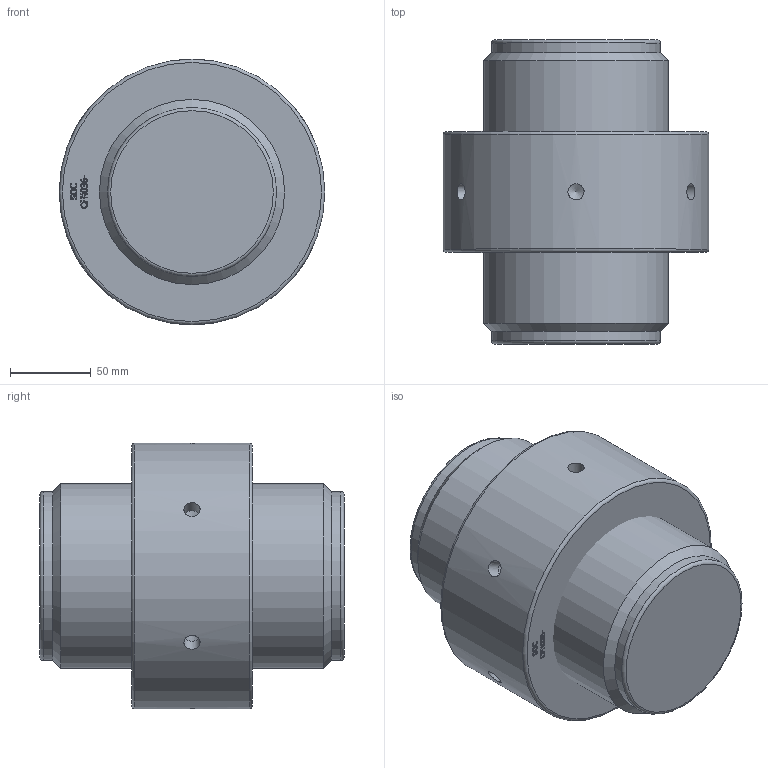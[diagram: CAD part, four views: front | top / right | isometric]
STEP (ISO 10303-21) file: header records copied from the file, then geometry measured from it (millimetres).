
FILE_DESCRIPTION(/* description */ (''),/* implementation_level */ '2;1');
FILE_NAME(/* name */ 'F:\Clienti LS\Redaelli\CYT\CYT\ARRNGEMENT\CYT036 61 061 0.stp',/* time_stamp */ '2021-05-09T08:43:59+02:00',/* author */ ('ranca'),/* organization */ (''),/* preprocessor_version */ 'ST-DEVELOPER v16.13',/* originating_system */ 'Autodesk Inventor 2018',/* authorisation */ '');
FILE_SCHEMA (('AUTOMOTIVE_DESIGN { 1 0 10303 214 3 1 1 }'));
Length unit declared in the file: millimetre
Products named in the file (3): CYT012-61-061-0; CYT012-61-061-0_1; CYT012-61-061-0_DADO
Assembly tree (2 placements, depth 2):
  CYT012-61-061-0
    CYT012-61-061-0_1
    CYT012-61-061-0_DADO
Bounding box: 165 x 189 x 165 mm (x, y, z)
Volume: 2830264.9 mm3; surface area: 175590.4 mm2
Topology: 2 solids, 2 shells, 370 faces, 1019 edges, 679 vertices
Faces by surface type: bspline 224, plane 123, cylinder 11, cone 8, torus 4
Full cylindrical faces by diameter (mm): 10 x6, 105 x2, 108.505 x1, 115 x1, 165 x1
Entity records: 12940 total; most frequent: CARTESIAN_POINT 5146, ORIENTED_EDGE 1966, EDGE_CURVE 983, DIRECTION 845, VERTEX_POINT 666, LINE 503, VECTOR 503, B_SPLINE_CURVE_WITH_KNOTS 460
